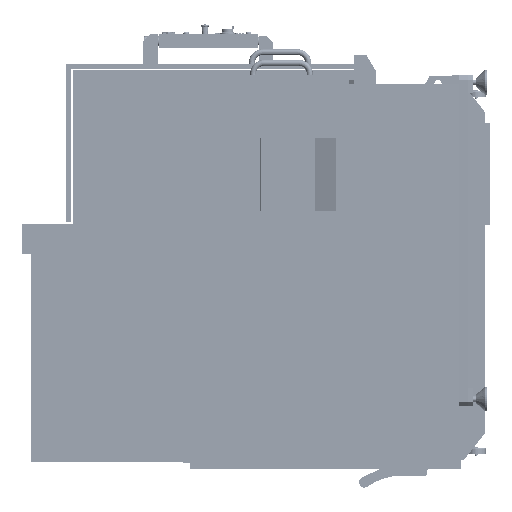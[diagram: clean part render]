
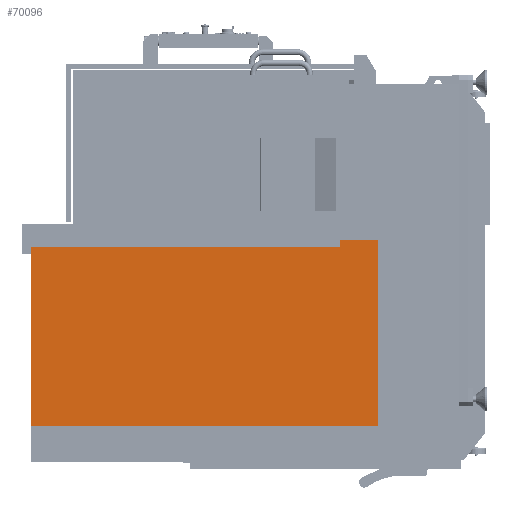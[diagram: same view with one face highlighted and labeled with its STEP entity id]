
A CAD part, left-side view. The second image highlights one B-rep face of the part: STEP entity #70096.
In plain terms, the highlighted planar face has unit normal (-1, 0, 0).
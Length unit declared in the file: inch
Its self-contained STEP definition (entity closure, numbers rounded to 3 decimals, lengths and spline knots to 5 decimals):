
#16532 = LINE ( 'NONE', #355680, #310689 ) ;
#17625 = EDGE_CURVE ( 'NONE', #413445, #541059, #234225, .T. ) ;
#20772 = LINE ( 'NONE', #54535, #29647 ) ;
#21413 = EDGE_CURVE ( 'NONE', #541059, #21865, #441523, .T. ) ;
#21865 = VERTEX_POINT ( 'NONE', #356046 ) ;
#27397 = DIRECTION ( 'NONE',  ( 0., -1., 0. ) ) ;
#29647 = VECTOR ( 'NONE', #141400, 39.37008 ) ;
#32662 = EDGE_CURVE ( 'NONE', #413445, #193138, #335730, .T. ) ;
#35471 = EDGE_CURVE ( 'NONE', #193138, #289211, #16532, .T. ) ;
#45687 = CARTESIAN_POINT ( 'NONE',  ( -70.7167, 53.09795, -51.58271 ) ) ;
#54535 = CARTESIAN_POINT ( 'NONE',  ( -70.7167, 53.09795, -52.6031 ) ) ;
#57485 = DIRECTION ( 'NONE',  ( 0., 0., -1. ) ) ;
#59513 = EDGE_CURVE ( 'NONE', #428847, #443119, #20772, .T. ) ;
#66099 = ORIENTED_EDGE ( 'NONE', *, *, #350093, .T. ) ;
#70096 = ADVANCED_FACE ( 'NONE', ( #206651 ), #251504, .T. ) ;
#76991 = ORIENTED_EDGE ( 'NONE', *, *, #59513, .T. ) ;
#93477 = CARTESIAN_POINT ( 'NONE',  ( -70.7167, 53.09795, -52.60271 ) ) ;
#116329 = ORIENTED_EDGE ( 'NONE', *, *, #21413, .T. ) ;
#120437 = VECTOR ( 'NONE', #539657, 39.37008 ) ;
#127852 = EDGE_CURVE ( 'NONE', #443119, #289211, #467434, .T. ) ;
#141400 = DIRECTION ( 'NONE',  ( 0., 0., -1. ) ) ;
#157359 = EDGE_LOOP ( 'NONE', ( #233892, #348828, #157824, #169642, #116329, #66099, #76991 ) ) ;
#157824 = ORIENTED_EDGE ( 'NONE', *, *, #32662, .F. ) ;
#168793 = CARTESIAN_POINT ( 'NONE',  ( -70.7167, 53.09795, -15.0397 ) ) ;
#169642 = ORIENTED_EDGE ( 'NONE', *, *, #17625, .T. ) ;
#193138 = VERTEX_POINT ( 'NONE', #374823 ) ;
#206651 = FACE_OUTER_BOUND ( 'NONE', #157359, .T. ) ;
#218205 = VECTOR ( 'NONE', #254401, 39.37008 ) ;
#229568 = DIRECTION ( 'NONE',  ( 0., 1., 0. ) ) ;
#233892 = ORIENTED_EDGE ( 'NONE', *, *, #127852, .T. ) ;
#234225 = LINE ( 'NONE', #399647, #120437 ) ;
#251504 = PLANE ( 'NONE',  #385196 ) ;
#254401 = DIRECTION ( 'NONE',  ( 0., 0., -1. ) ) ;
#281870 = VECTOR ( 'NONE', #285467, 39.37008 ) ;
#285246 = DIRECTION ( 'NONE',  ( -1., 0., 0. ) ) ;
#285467 = DIRECTION ( 'NONE',  ( 0., 0., -1. ) ) ;
#288159 = CARTESIAN_POINT ( 'NONE',  ( -70.7167, 53.09795, -51.58271 ) ) ;
#289211 = VERTEX_POINT ( 'NONE', #93477 ) ;
#304083 = CARTESIAN_POINT ( 'NONE',  ( -70.7167, 53.09795, -15.0397 ) ) ;
#310689 = VECTOR ( 'NONE', #229568, 39.37008 ) ;
#315351 = CARTESIAN_POINT ( 'NONE',  ( -70.7167, -11.55711, -15.0397 ) ) ;
#335730 = LINE ( 'NONE', #464721, #281870 ) ;
#348828 = ORIENTED_EDGE ( 'NONE', *, *, #35471, .F. ) ;
#350093 = EDGE_CURVE ( 'NONE', #21865, #428847, #480594, .T. ) ;
#355680 = CARTESIAN_POINT ( 'NONE',  ( -70.7167, 0., -52.60271 ) ) ;
#356046 = CARTESIAN_POINT ( 'NONE',  ( -70.7167, -11.55711, -15.0397 ) ) ;
#366584 = CARTESIAN_POINT ( 'NONE',  ( -70.7167, -19.57049, -13.7074 ) ) ;
#374455 = VECTOR ( 'NONE', #57485, 39.37008 ) ;
#374823 = CARTESIAN_POINT ( 'NONE',  ( -70.7167, -19.57049, -52.60271 ) ) ;
#374828 = CARTESIAN_POINT ( 'NONE',  ( -70.7167, 53.09795, -51.58271 ) ) ;
#385196 = AXIS2_PLACEMENT_3D ( 'NONE', #374828, #285246, #27397 ) ;
#399647 = CARTESIAN_POINT ( 'NONE',  ( -70.7167, -11.55711, -13.7074 ) ) ;
#413445 = VERTEX_POINT ( 'NONE', #366584 ) ;
#428847 = VERTEX_POINT ( 'NONE', #168793 ) ;
#431395 = CARTESIAN_POINT ( 'NONE',  ( -70.7167, -11.55711, -13.7074 ) ) ;
#441523 = LINE ( 'NONE', #315351, #374455 ) ;
#443119 = VERTEX_POINT ( 'NONE', #45687 ) ;
#464721 = CARTESIAN_POINT ( 'NONE',  ( -70.7167, -19.57049, -51.58271 ) ) ;
#467434 = LINE ( 'NONE', #288159, #218205 ) ;
#475087 = DIRECTION ( 'NONE',  ( 0., 1., 0. ) ) ;
#480594 = LINE ( 'NONE', #304083, #509798 ) ;
#509798 = VECTOR ( 'NONE', #475087, 39.37008 ) ;
#539657 = DIRECTION ( 'NONE',  ( 0., 1., 0. ) ) ;
#541059 = VERTEX_POINT ( 'NONE', #431395 ) ;
